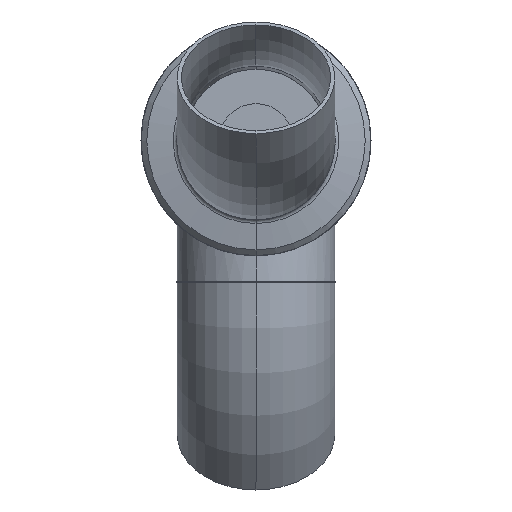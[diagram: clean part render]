
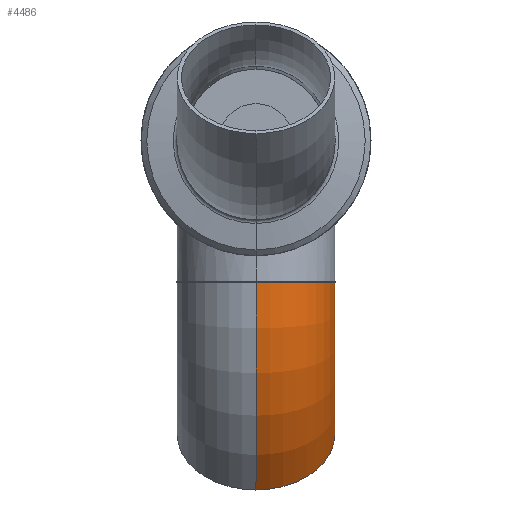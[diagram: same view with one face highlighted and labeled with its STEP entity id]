
A CAD part, front view. The second image highlights one B-rep face of the part: STEP entity #4486.
In plain terms, the highlighted toroidal (fillet/blend) face has major radius 229 mm and minor radius 84.15 mm.
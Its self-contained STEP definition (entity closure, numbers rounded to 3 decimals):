
#3 = VERTEX_POINT ( 'NONE', #391 ) ;
#35 = EDGE_CURVE ( 'NONE', #7340, #3, #607, .T. ) ;
#131 = VERTEX_POINT ( 'NONE', #1108 ) ;
#391 = CARTESIAN_POINT ( 'NONE',  ( 0., 84.15, 0. ) ) ;
#607 = CIRCLE ( 'NONE', #608, 313.15 ) ;
#608 = AXIS2_PLACEMENT_3D ( 'NONE', #609, #610, #611 ) ;
#609 = CARTESIAN_POINT ( 'NONE',  ( 0., -229., 0. ) ) ;
#610 = DIRECTION ( 'NONE',  ( 0., 0., 1. ) ) ;
#611 = DIRECTION ( 'NONE',  ( 1., 0., 0. ) ) ;
#1108 = CARTESIAN_POINT ( 'NONE',  ( 102.424, -126.576, 0. ) ) ;
#1329 = CARTESIAN_POINT ( 'NONE',  ( 221.43, -7.57, 0. ) ) ;
#2822 = CIRCLE ( 'NONE', #2823, 144.85 ) ;
#2823 = AXIS2_PLACEMENT_3D ( 'NONE', #2824, #2825, #2826 ) ;
#2824 = CARTESIAN_POINT ( 'NONE',  ( 0., -229., 0. ) ) ;
#2825 = DIRECTION ( 'NONE',  ( 0., 0., 1. ) ) ;
#2826 = DIRECTION ( 'NONE',  ( 1., 0., 0. ) ) ;
#2887 = EDGE_CURVE ( 'NONE', #131, #7340, #7052, .T. ) ;
#3237 = ORIENTED_EDGE ( 'NONE', *, *, #2887, .F. ) ;
#3605 = FACE_OUTER_BOUND ( 'NONE', #4247, .T. ) ;
#3606 = TOROIDAL_SURFACE ( 'NONE', #3607, 229., 84.15 ) ;
#3607 = AXIS2_PLACEMENT_3D ( 'NONE', #3608, #3609, #3610 ) ;
#3608 = CARTESIAN_POINT ( 'NONE',  ( 0., -229., 0. ) ) ;
#3609 = DIRECTION ( 'NONE',  ( 0., 0., 1. ) ) ;
#3610 = DIRECTION ( 'NONE',  ( 1., 0., 0. ) ) ;
#3743 = ORIENTED_EDGE ( 'NONE', *, *, #35, .F. ) ;
#4233 = CARTESIAN_POINT ( 'NONE',  ( 0., -84.15, 0. ) ) ;
#4247 = EDGE_LOOP ( 'NONE', ( #3743, #3237, #8388, #8347 ) ) ;
#4486 = ADVANCED_FACE ( 'NONE', ( #3605 ), #3606, .T. ) ;
#5933 = CIRCLE ( 'NONE', #5934, 84.15 ) ;
#5934 = AXIS2_PLACEMENT_3D ( 'NONE', #5935, #5936, #5937 ) ;
#5935 = CARTESIAN_POINT ( 'NONE',  ( 0., 0., 0. ) ) ;
#5936 = DIRECTION ( 'NONE',  ( 1., 0., 0. ) ) ;
#5937 = DIRECTION ( 'NONE',  ( 0., 0., -1. ) ) ;
#7052 = CIRCLE ( 'NONE', #7053, 84.15 ) ;
#7053 = AXIS2_PLACEMENT_3D ( 'NONE', #7054, #7055, #7056 ) ;
#7054 = CARTESIAN_POINT ( 'NONE',  ( 161.927, -67.073, 0. ) ) ;
#7055 = DIRECTION ( 'NONE',  ( 0.707, -0.707, 0. ) ) ;
#7056 = DIRECTION ( 'NONE',  ( 0., 0., -1. ) ) ;
#7340 = VERTEX_POINT ( 'NONE', #1329 ) ;
#8313 = EDGE_CURVE ( 'NONE', #8667, #3, #5933, .T. ) ;
#8347 = ORIENTED_EDGE ( 'NONE', *, *, #8313, .T. ) ;
#8388 = ORIENTED_EDGE ( 'NONE', *, *, #8571, .T. ) ;
#8571 = EDGE_CURVE ( 'NONE', #131, #8667, #2822, .T. ) ;
#8667 = VERTEX_POINT ( 'NONE', #4233 ) ;
